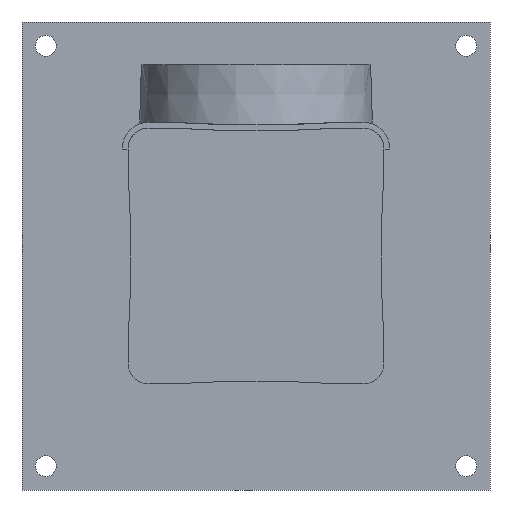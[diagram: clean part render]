
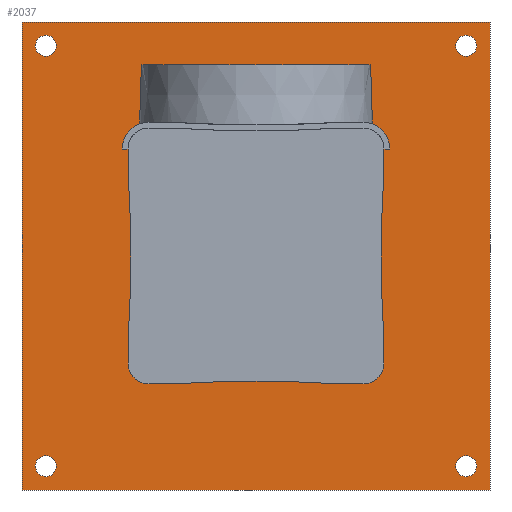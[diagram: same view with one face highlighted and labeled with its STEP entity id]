
A CAD part, front view. The second image highlights one B-rep face of the part: STEP entity #2037.
In plain terms, the highlighted planar face has unit normal (0, -1, 0) as drawn and (0, 0, -1) by its records, which use the part's own axes.
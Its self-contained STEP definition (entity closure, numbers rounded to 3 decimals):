
#1790=DIRECTION('',(0.,1.,0.));
#1791=VECTOR('',#1790,245.);
#1792=CARTESIAN_POINT('',(122.5,-122.5,0.));
#1793=LINE('',#1792,#1791);
#1794=DIRECTION('',(-1.,0.,0.));
#1795=VECTOR('',#1794,245.);
#1796=CARTESIAN_POINT('',(122.5,122.5,0.));
#1797=LINE('',#1796,#1795);
#1798=DIRECTION('',(0.,-1.,0.));
#1799=VECTOR('',#1798,245.);
#1800=CARTESIAN_POINT('',(-122.5,122.5,0.));
#1801=LINE('',#1800,#1799);
#1802=DIRECTION('',(1.,0.,0.));
#1803=VECTOR('',#1802,245.);
#1804=CARTESIAN_POINT('',(-122.5,-122.5,0.));
#1805=LINE('',#1804,#1803);
#1806=CARTESIAN_POINT('',(110.,-110.,0.));
#1807=DIRECTION('',(0.,0.,-1.));
#1808=DIRECTION('',(-1.,0.,0.));
#1809=AXIS2_PLACEMENT_3D('',#1806,#1807,#1808);
#1811=CARTESIAN_POINT('',(110.,-110.,0.));
#1812=DIRECTION('',(0.,0.,-1.));
#1813=DIRECTION('',(1.,0.,0.));
#1814=AXIS2_PLACEMENT_3D('',#1811,#1812,#1813);
#1816=CARTESIAN_POINT('',(110.,110.,0.));
#1817=DIRECTION('',(0.,0.,-1.));
#1818=DIRECTION('',(-1.,0.,0.));
#1819=AXIS2_PLACEMENT_3D('',#1816,#1817,#1818);
#1821=CARTESIAN_POINT('',(110.,110.,0.));
#1822=DIRECTION('',(0.,0.,-1.));
#1823=DIRECTION('',(1.,0.,0.));
#1824=AXIS2_PLACEMENT_3D('',#1821,#1822,#1823);
#1826=CARTESIAN_POINT('',(-110.,-110.,0.));
#1827=DIRECTION('',(0.,0.,-1.));
#1828=DIRECTION('',(-1.,0.,0.));
#1829=AXIS2_PLACEMENT_3D('',#1826,#1827,#1828);
#1831=CARTESIAN_POINT('',(-110.,-110.,0.));
#1832=DIRECTION('',(0.,0.,-1.));
#1833=DIRECTION('',(1.,0.,0.));
#1834=AXIS2_PLACEMENT_3D('',#1831,#1832,#1833);
#1836=CARTESIAN_POINT('',(-110.,110.,0.));
#1837=DIRECTION('',(0.,0.,-1.));
#1838=DIRECTION('',(-1.,0.,0.));
#1839=AXIS2_PLACEMENT_3D('',#1836,#1837,#1838);
#1841=CARTESIAN_POINT('',(-110.,110.,0.));
#1842=DIRECTION('',(0.,0.,-1.));
#1843=DIRECTION('',(1.,0.,0.));
#1844=AXIS2_PLACEMENT_3D('',#1841,#1842,#1843);
#1950=CARTESIAN_POINT('',(122.5,-122.5,0.));
#1951=CARTESIAN_POINT('',(122.5,122.5,0.));
#1952=VERTEX_POINT('',#1950);
#1953=VERTEX_POINT('',#1951);
#1954=CARTESIAN_POINT('',(-122.5,122.5,0.));
#1955=VERTEX_POINT('',#1954);
#1956=CARTESIAN_POINT('',(-122.5,-122.5,0.));
#1957=VERTEX_POINT('',#1956);
#1966=CARTESIAN_POINT('',(104.5,-110.,0.));
#1967=CARTESIAN_POINT('',(115.5,-110.,0.));
#1968=VERTEX_POINT('',#1966);
#1969=VERTEX_POINT('',#1967);
#1974=CARTESIAN_POINT('',(104.5,110.,0.));
#1975=CARTESIAN_POINT('',(115.5,110.,0.));
#1976=VERTEX_POINT('',#1974);
#1977=VERTEX_POINT('',#1975);
#1982=CARTESIAN_POINT('',(-115.5,-110.,0.));
#1983=CARTESIAN_POINT('',(-104.5,-110.,0.));
#1984=VERTEX_POINT('',#1982);
#1985=VERTEX_POINT('',#1983);
#1990=CARTESIAN_POINT('',(-115.5,110.,0.));
#1991=CARTESIAN_POINT('',(-104.5,110.,0.));
#1992=VERTEX_POINT('',#1990);
#1993=VERTEX_POINT('',#1991);
#1998=CARTESIAN_POINT('',(0.,0.,0.));
#1999=DIRECTION('',(0.,0.,1.));
#2000=DIRECTION('',(1.,0.,0.));
#2001=AXIS2_PLACEMENT_3D('',#1998,#1999,#2000);
#2002=PLANE('',#2001);
#2004=ORIENTED_EDGE('',*,*,#2003,.T.);
#2006=ORIENTED_EDGE('',*,*,#2005,.T.);
#2008=ORIENTED_EDGE('',*,*,#2007,.T.);
#2010=ORIENTED_EDGE('',*,*,#2009,.T.);
#2011=EDGE_LOOP('',(#2004,#2006,#2008,#2010));
#2012=FACE_OUTER_BOUND('',#2011,.F.);
#2014=ORIENTED_EDGE('',*,*,#2013,.T.);
#2016=ORIENTED_EDGE('',*,*,#2015,.T.);
#2017=EDGE_LOOP('',(#2014,#2016));
#2018=FACE_BOUND('',#2017,.F.);
#2020=ORIENTED_EDGE('',*,*,#2019,.T.);
#2022=ORIENTED_EDGE('',*,*,#2021,.T.);
#2023=EDGE_LOOP('',(#2020,#2022));
#2024=FACE_BOUND('',#2023,.F.);
#2026=ORIENTED_EDGE('',*,*,#2025,.T.);
#2028=ORIENTED_EDGE('',*,*,#2027,.T.);
#2029=EDGE_LOOP('',(#2026,#2028));
#2030=FACE_BOUND('',#2029,.F.);
#2032=ORIENTED_EDGE('',*,*,#2031,.T.);
#2034=ORIENTED_EDGE('',*,*,#2033,.T.);
#2035=EDGE_LOOP('',(#2032,#2034));
#2036=FACE_BOUND('',#2035,.F.);
#1810=CIRCLE('',#1809,5.5);
#1815=CIRCLE('',#1814,5.5);
#1820=CIRCLE('',#1819,5.5);
#1825=CIRCLE('',#1824,5.5);
#1830=CIRCLE('',#1829,5.5);
#1835=CIRCLE('',#1834,5.5);
#1840=CIRCLE('',#1839,5.5);
#1845=CIRCLE('',#1844,5.5);
#2003=EDGE_CURVE('',#1952,#1953,#1793,.T.);
#2005=EDGE_CURVE('',#1953,#1955,#1797,.T.);
#2007=EDGE_CURVE('',#1955,#1957,#1801,.T.);
#2009=EDGE_CURVE('',#1957,#1952,#1805,.T.);
#2013=EDGE_CURVE('',#1968,#1969,#1810,.T.);
#2015=EDGE_CURVE('',#1969,#1968,#1815,.T.);
#2019=EDGE_CURVE('',#1976,#1977,#1820,.T.);
#2021=EDGE_CURVE('',#1977,#1976,#1825,.T.);
#2025=EDGE_CURVE('',#1984,#1985,#1830,.T.);
#2027=EDGE_CURVE('',#1985,#1984,#1835,.T.);
#2031=EDGE_CURVE('',#1992,#1993,#1840,.T.);
#2033=EDGE_CURVE('',#1993,#1992,#1845,.T.);
#2037=ADVANCED_FACE('',(#2012,#2018,#2024,#2030,#2036),#2002,.F.);
